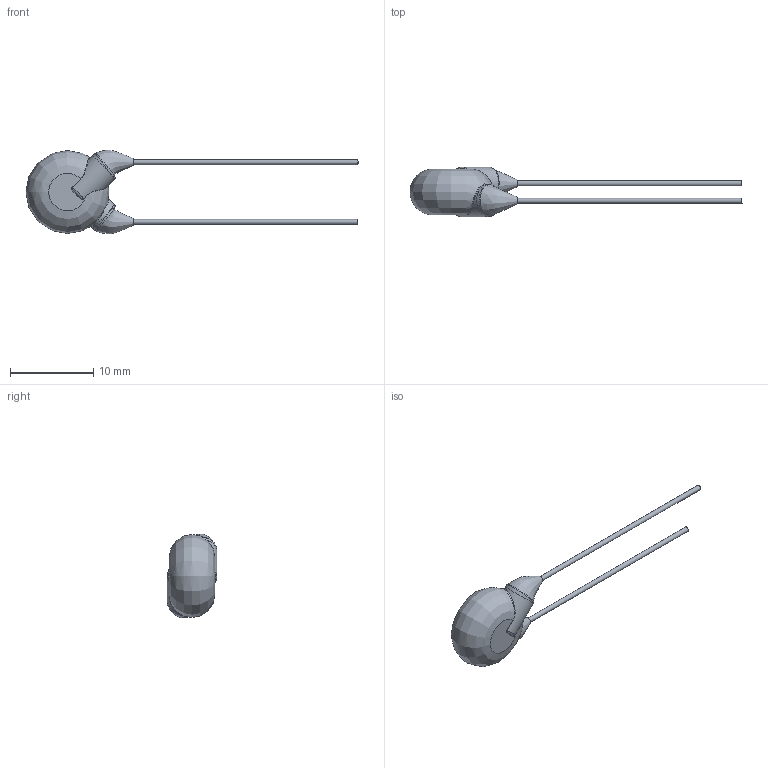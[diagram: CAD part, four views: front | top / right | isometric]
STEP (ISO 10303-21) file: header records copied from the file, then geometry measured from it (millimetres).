
FILE_DESCRIPTION(/* description */ (''),/* implementation_level */ '2;1');
FILE_NAME(/* name */ 'I:\Marketing\M6t1\3D-Models\Zchng-Werk-3\Upload for homepage\Roederstein\VKO\Y5U_300-440\VKO222MCQCF0KR\VKO222MCQCF0KR.stp',/* time_stamp */ '2018-03-15T10:47:04+01:00',/* author */ ('sheinrich'),/* organization */ (''),/* preprocessor_version */ 'ST-DEVELOPER v16.1',/* originating_system */ 'Autodesk Inventor 2016',/* authorisation */ '');
FILE_SCHEMA (('AUTOMOTIVE_DESIGN { 1 0 10303 214 3 1 1 }'));
Length unit declared in the file: centimetre
Products named in the file (1): VKO222MCQCF0KR
Bounding box: 39.99 x 6 x 10.07 mm (x, y, z)
Volume: 422.3 mm3; surface area: 417.3 mm2
Topology: 1 solids, 1 shells, 36 faces, 81 edges, 45 vertices
Faces by surface type: bspline 19, cylinder 9, plane 6, torus 2
Full cylindrical faces by diameter (mm): 0.6 x2, 3.9 x2
Entity records: 2360 total; most frequent: CARTESIAN_POINT 1670, ORIENTED_EDGE 138, DIRECTION 94, EDGE_CURVE 69, AXIS2_PLACEMENT_3D 43, VERTEX_POINT 42, EDGE_LOOP 41, STYLED_ITEM 36
